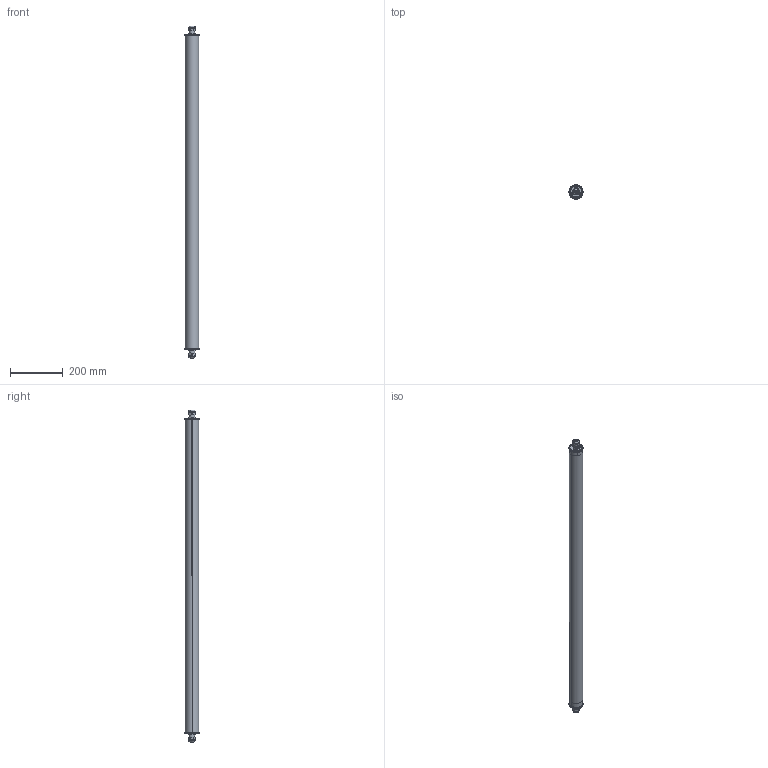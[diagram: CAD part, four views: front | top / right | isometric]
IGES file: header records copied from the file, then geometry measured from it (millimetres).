
Start section: SolidWorks IGES file using analytic representation for surfaces
Global section: file name: C:\Users\JoãoSantos\Desktop\02_3D.2D\01_2020\02_Linear\02_Tubo\01_Tubo_50\Repicagem\TUBO_50_REP_1192.IGS; native system: SolidWorks 2020; preprocessor: SolidWorks 2020; author: JoãoSantos; date: 201020.174039; units: millimetre
Bounding box: 53 x 53 x 1256 mm (x, y, z)
Surface area: 406653.6 mm2 (no closed solid volume)
Topology: 0 solids, 0 shells, 1534 faces, 13990 edges, 13930 vertices
Faces by surface type: revolution 856, bspline 678
